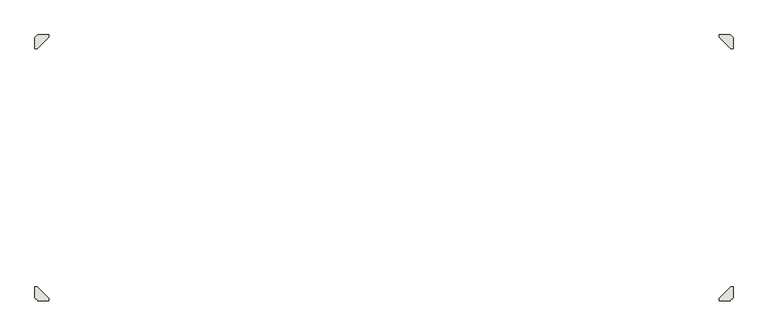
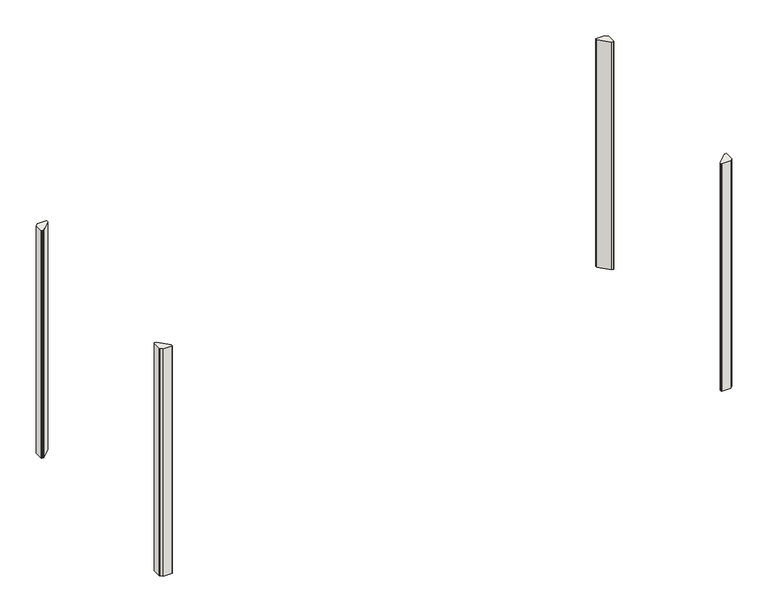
"""IFC4 building model written with IfcOpenShell, lengths in millimetres: wall geometry, Constuction_Wall_Zeppelin-Rental-GmbH_Corner1 : Constuction_Wall_Zeppelin-Rental-GmbH_Corner."""

from ifc_helpers import new_model, si_unit, point, frame_2d, origin, origin_with_axes, place, context, project, spatial, polyline, circle_curve, trimmed, segment, composite_curve, outline, extrude, source, transform, mapped, element, save


def wall_2a85aa9a(model_context):
    return source(origin(), model_context, "Body", "SweptSolid", [
        extrude(outline(composite_curve([segment(trimmed(circle_curve(frame_2d((-56304.3096117, 53789.4666256)), 2.0), [point((-56305.7238253, 53790.8808392))], [point((-56304.3096117, 53791.4666256))], False, "CARTESIAN"), True, "CONTINUOUS"), segment(polyline([(-56304.3096117, 53791.4666256), (-56287.1810521, 53791.4666256)]), True, "CONTINUOUS"), segment(trimmed(circle_curve(frame_2d((-56287.1810521, 53789.4236124)), 2.0430133), [point((-56287.1810521, 53791.4666256))], [point((-56285.1380388, 53789.4236124))], False, "CARTESIAN"), True, "CONTINUOUS"), segment(polyline([(-56285.1380388, 53789.4236124), (-56285.1380388, 53699.2950527)]), True, "CONTINUOUS"), segment(trimmed(circle_curve(frame_2d((-56287.1380388, 53699.2950527)), 2.0), [point((-56285.1380388, 53699.2950527))], [point((-56285.7238253, 53697.8808392))], False, "CARTESIAN"), True, "CONTINUOUS"), segment(polyline([(-56285.7238253, 53697.8808392), (-56309.2964398, 53674.3082246)]), True, "CONTINUOUS"), segment(trimmed(circle_curve(frame_2d((-56310.7216378, 53675.7334226)), 2.0155343), [point((-56309.2964398, 53674.3082246))], [point((-56310.7216378, 53673.7178883))], False, "CARTESIAN"), True, "CONTINUOUS"), segment(polyline([(-56310.7216378, 53673.7178883), (-56400.8299991, 53673.7178883)]), True, "CONTINUOUS"), segment(trimmed(circle_curve(frame_2d((-56400.8299991, 53675.7746653)), 2.0567771), [point((-56400.8299991, 53673.7178883))], [point((-56402.8867762, 53675.7746653))], False, "CARTESIAN"), True, "CONTINUOUS"), segment(polyline([(-56402.8867762, 53675.7746653), (-56402.8867762, 53692.8926341)]), True, "CONTINUOUS"), segment(trimmed(circle_curve(frame_2d((-56400.8944364, 53692.8926341)), 1.9923398), [point((-56402.8867762, 53692.8926341))], [point((-56402.3032333, 53694.3014311))], False, "CARTESIAN"), True, "CONTINUOUS"), segment(polyline([(-56402.3032333, 53694.3014311), (-56305.7238253, 53790.8808392)]), True, "CONTINUOUS")], self_intersect=False)), origin_with_axes(), (0.0, 0.0, 1.0), 2459.0),
        extrude(outline(composite_curve([segment(polyline([(-62114.5522524, 53790.8808392), (-62017.9728443, 53694.3014311)]), True, "CONTINUOUS"), segment(trimmed(circle_curve(frame_2d((-62019.3816413, 53692.8926341)), 1.9923398), [point((-62017.9728443, 53694.3014311))], [point((-62017.3893015, 53692.8926341))], False, "CARTESIAN"), True, "CONTINUOUS"), segment(polyline([(-62017.3893015, 53692.8926341), (-62017.3893015, 53675.7746653)]), True, "CONTINUOUS"), segment(trimmed(circle_curve(frame_2d((-62019.4460785, 53675.7746653)), 2.0567771), [point((-62017.3893015, 53675.7746653))], [point((-62019.4460785, 53673.7178883))], False, "CARTESIAN"), True, "CONTINUOUS"), segment(polyline([(-62019.4460785, 53673.7178883), (-62109.5544398, 53673.7178883)]), True, "CONTINUOUS"), segment(trimmed(circle_curve(frame_2d((-62109.5544398, 53675.7334226)), 2.0155343), [point((-62109.5544398, 53673.7178883))], [point((-62110.9796378, 53674.3082246))], False, "CARTESIAN"), True, "CONTINUOUS"), segment(polyline([(-62110.9796378, 53674.3082246), (-62134.5522524, 53697.8808392)]), True, "CONTINUOUS"), segment(trimmed(circle_curve(frame_2d((-62133.1380388, 53699.2950527)), 2.0), [point((-62134.5522524, 53697.8808392))], [point((-62135.1380388, 53699.2950527))], False, "CARTESIAN"), True, "CONTINUOUS"), segment(polyline([(-62135.1380388, 53699.2950527), (-62135.1380388, 53789.4236124)]), True, "CONTINUOUS"), segment(trimmed(circle_curve(frame_2d((-62133.0950256, 53789.4236124)), 2.0430133), [point((-62135.1380388, 53789.4236124))], [point((-62133.0950256, 53791.4666256))], False, "CARTESIAN"), True, "CONTINUOUS"), segment(polyline([(-62133.0950256, 53791.4666256), (-62115.9664659, 53791.4666256)]), True, "CONTINUOUS"), segment(trimmed(circle_curve(frame_2d((-62115.9664659, 53789.4666256)), 2.0), [point((-62115.9664659, 53791.4666256))], [point((-62114.5522524, 53790.8808392))], False, "CARTESIAN"), True, "CONTINUOUS")], self_intersect=False)), origin_with_axes(), (0.0, 0.0, 1.0), 2459.0),
        extrude(outline(composite_curve([segment(polyline([(-56305.7238253, 55786.5550619), (-56402.3032333, 55883.13447)]), True, "CONTINUOUS"), segment(trimmed(circle_curve(frame_2d((-56400.8944364, 55884.543267)), 1.9923398), [point((-56402.3032333, 55883.13447))], [point((-56402.8867762, 55884.543267))], False, "CARTESIAN"), True, "CONTINUOUS"), segment(polyline([(-56402.8867762, 55884.543267), (-56402.8867762, 55901.6612358)]), True, "CONTINUOUS"), segment(trimmed(circle_curve(frame_2d((-56400.8299991, 55901.6612358)), 2.0567771), [point((-56402.8867762, 55901.6612358))], [point((-56400.8299991, 55903.7180128))], False, "CARTESIAN"), True, "CONTINUOUS"), segment(polyline([(-56400.8299991, 55903.7180128), (-56310.7216378, 55903.7180128)]), True, "CONTINUOUS"), segment(trimmed(circle_curve(frame_2d((-56310.7216378, 55901.7024785)), 2.0155343), [point((-56310.7216378, 55903.7180128))], [point((-56309.2964398, 55903.1276765))], False, "CARTESIAN"), True, "CONTINUOUS"), segment(polyline([(-56309.2964398, 55903.1276765), (-56285.7238253, 55879.5550619)]), True, "CONTINUOUS"), segment(trimmed(circle_curve(frame_2d((-56287.1380388, 55878.1408484)), 2.0), [point((-56285.7238253, 55879.5550619))], [point((-56285.1380388, 55878.1408484))], False, "CARTESIAN"), True, "CONTINUOUS"), segment(polyline([(-56285.1380388, 55878.1408484), (-56285.1380388, 55788.0122888)]), True, "CONTINUOUS"), segment(trimmed(circle_curve(frame_2d((-56287.1810521, 55788.0122888)), 2.0430133), [point((-56285.1380388, 55788.0122888))], [point((-56287.1810521, 55785.9692755))], False, "CARTESIAN"), True, "CONTINUOUS"), segment(polyline([(-56287.1810521, 55785.9692755), (-56304.3096117, 55785.9692755)]), True, "CONTINUOUS"), segment(trimmed(circle_curve(frame_2d((-56304.3096117, 55787.9692755)), 2.0), [point((-56304.3096117, 55785.9692755))], [point((-56305.7238253, 55786.5550619))], False, "CARTESIAN"), True, "CONTINUOUS")], self_intersect=False)), origin_with_axes(), (0.0, 0.0, 1.0), 2459.0),
        extrude(outline(composite_curve([segment(trimmed(circle_curve(frame_2d((-62115.9664659, 55787.9692755)), 2.0), [point((-62114.5522524, 55786.5550619))], [point((-62115.9664659, 55785.9692755))], False, "CARTESIAN"), True, "CONTINUOUS"), segment(polyline([(-62115.9664659, 55785.9692755), (-62133.0950256, 55785.9692755)]), True, "CONTINUOUS"), segment(trimmed(circle_curve(frame_2d((-62133.0950256, 55788.0122888)), 2.0430133), [point((-62133.0950256, 55785.9692755))], [point((-62135.1380388, 55788.0122888))], False, "CARTESIAN"), True, "CONTINUOUS"), segment(polyline([(-62135.1380388, 55788.0122888), (-62135.1380388, 55878.1408484)]), True, "CONTINUOUS"), segment(trimmed(circle_curve(frame_2d((-62133.1380388, 55878.1408484)), 2.0), [point((-62135.1380388, 55878.1408484))], [point((-62134.5522524, 55879.5550619))], False, "CARTESIAN"), True, "CONTINUOUS"), segment(polyline([(-62134.5522524, 55879.5550619), (-62110.9796378, 55903.1276765)]), True, "CONTINUOUS"), segment(trimmed(circle_curve(frame_2d((-62109.5544398, 55901.7024785)), 2.0155343), [point((-62110.9796378, 55903.1276765))], [point((-62109.5544398, 55903.7180128))], False, "CARTESIAN"), True, "CONTINUOUS"), segment(polyline([(-62109.5544398, 55903.7180128), (-62019.4460785, 55903.7180128)]), True, "CONTINUOUS"), segment(trimmed(circle_curve(frame_2d((-62019.4460785, 55901.6612358)), 2.0567771), [point((-62019.4460785, 55903.7180128))], [point((-62017.3893015, 55901.6612358))], False, "CARTESIAN"), True, "CONTINUOUS"), segment(polyline([(-62017.3893015, 55901.6612358), (-62017.3893015, 55884.543267)]), True, "CONTINUOUS"), segment(trimmed(circle_curve(frame_2d((-62019.3816413, 55884.543267)), 1.9923398), [point((-62017.3893015, 55884.543267))], [point((-62017.9728443, 55883.13447))], False, "CARTESIAN"), True, "CONTINUOUS"), segment(polyline([(-62017.9728443, 55883.13447), (-62114.5522524, 55786.5550619)]), True, "CONTINUOUS")], self_intersect=False)), origin_with_axes(), (0.0, 0.0, 1.0), 2459.0),
    ])


if __name__ == "__main__":
    model = new_model("IFC4")
    model_context = context("Model", 3, world=origin())
    ifc_project = project(units=[si_unit("LENGTHUNIT", "METRE", prefix="MILLI")], contexts=[model_context])
    site = spatial("IfcSite", under=ifc_project)
    building = spatial("IfcBuilding", under=site)
    placement = place(None, origin())
    wall_shape = wall_2a85aa9a(model_context)
    element("IfcWall", 1, ObjectType="Constuction_Wall_Zeppelin-Rental-GmbH_Corner1 : Constuction_Wall_Zeppelin-Rental-GmbH_Corner", at=placement, inside=building, context=model_context, shape_type="MappedRepresentation", body=[
        mapped(wall_shape, transform((0.0, 0.0, 0.0), x_axis=(1.0, 0.0, 0.0), y_axis=(0.0, 1.0, 0.0), z_axis=(0.0, 0.0, 1.0))),
    ])
    save(model, "model.ifc")
